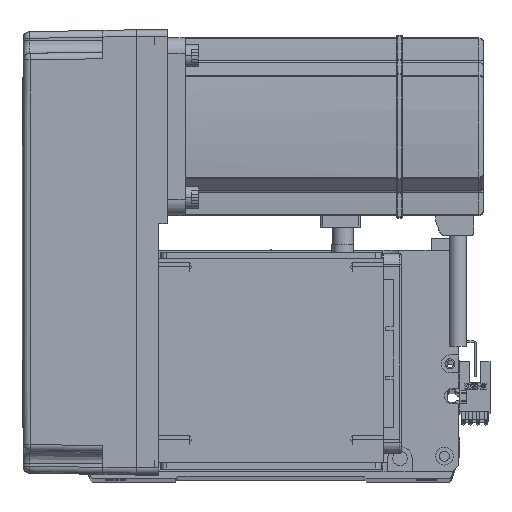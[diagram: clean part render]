
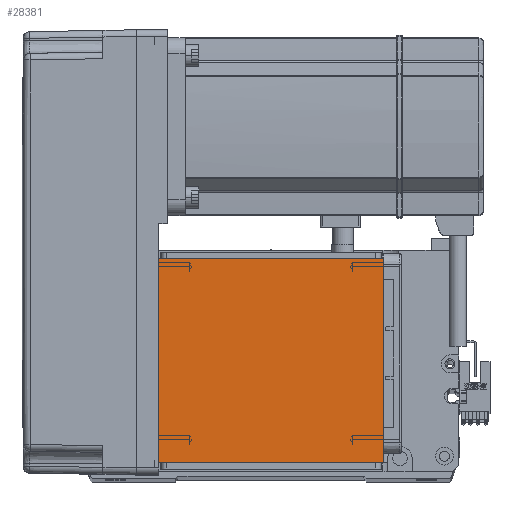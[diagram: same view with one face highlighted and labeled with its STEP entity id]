
A CAD part, top view. The second image highlights one B-rep face of the part: STEP entity #28381.
In plain terms, the highlighted planar face has unit normal (0, 0, 1).
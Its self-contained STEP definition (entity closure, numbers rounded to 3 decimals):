
#1633 = ORIENTED_EDGE ( 'NONE', *, *, #56734, .T. ) ;
#2822 = CARTESIAN_POINT ( 'NONE',  ( 50.5, 111.5, 115. ) ) ;
#5099 = LINE ( 'NONE', #21216, #54786 ) ;
#5243 = DIRECTION ( 'NONE',  ( 0., 0., 1. ) ) ;
#5596 = VERTEX_POINT ( 'NONE', #2822 ) ;
#6277 = VECTOR ( 'NONE', #24390, 1000. ) ;
#7888 = ORIENTED_EDGE ( 'NONE', *, *, #24366, .F. ) ;
#9790 = DIRECTION ( 'NONE',  ( 0., 1., 0. ) ) ;
#11243 = EDGE_CURVE ( 'NONE', #49242, #5596, #18297, .T. ) ;
#15622 = DIRECTION ( 'NONE',  ( 1., 0., 0. ) ) ;
#18297 = LINE ( 'NONE', #19785, #30207 ) ;
#19785 = CARTESIAN_POINT ( 'NONE',  ( -70.004, 111.5, 115. ) ) ;
#20102 = CARTESIAN_POINT ( 'NONE',  ( -50.5, 122., 115. ) ) ;
#21216 = CARTESIAN_POINT ( 'NONE',  ( -70.004, 20., 115. ) ) ;
#23389 = FACE_OUTER_BOUND ( 'NONE', #44857, .T. ) ;
#23818 = AXIS2_PLACEMENT_3D ( 'NONE', #36958, #5243, #50219 ) ;
#24366 = EDGE_CURVE ( 'NONE', #56623, #52683, #5099, .T. ) ;
#24390 = DIRECTION ( 'NONE',  ( 0., -1., 0. ) ) ;
#28018 = ORIENTED_EDGE ( 'NONE', *, *, #11243, .F. ) ;
#28197 = CARTESIAN_POINT ( 'NONE',  ( -50.5, 20., 115. ) ) ;
#28381 = ADVANCED_FACE ( 'NONE', ( #23389 ), #54342, .T. ) ;
#30207 = VECTOR ( 'NONE', #15622, 1000. ) ;
#31952 = CARTESIAN_POINT ( 'NONE',  ( 50.5, 122., 115. ) ) ;
#34509 = DIRECTION ( 'NONE',  ( -1., 0., 0. ) ) ;
#34676 = CARTESIAN_POINT ( 'NONE',  ( -50.5, 111.5, 115. ) ) ;
#35493 = EDGE_CURVE ( 'NONE', #56623, #5596, #38489, .T. ) ;
#35987 = CARTESIAN_POINT ( 'NONE',  ( 50.5, 20., 115. ) ) ;
#36958 = CARTESIAN_POINT ( 'NONE',  ( 0., 0., 115. ) ) ;
#38065 = ORIENTED_EDGE ( 'NONE', *, *, #35493, .T. ) ;
#38489 = LINE ( 'NONE', #31952, #48934 ) ;
#44857 = EDGE_LOOP ( 'NONE', ( #28018, #1633, #7888, #38065 ) ) ;
#48934 = VECTOR ( 'NONE', #9790, 1000. ) ;
#49242 = VERTEX_POINT ( 'NONE', #34676 ) ;
#50219 = DIRECTION ( 'NONE',  ( 1., 0., 0. ) ) ;
#51070 = LINE ( 'NONE', #20102, #6277 ) ;
#52683 = VERTEX_POINT ( 'NONE', #28197 ) ;
#54342 = PLANE ( 'NONE',  #23818 ) ;
#54786 = VECTOR ( 'NONE', #34509, 1000. ) ;
#56623 = VERTEX_POINT ( 'NONE', #35987 ) ;
#56734 = EDGE_CURVE ( 'NONE', #49242, #52683, #51070, .T. ) ;
